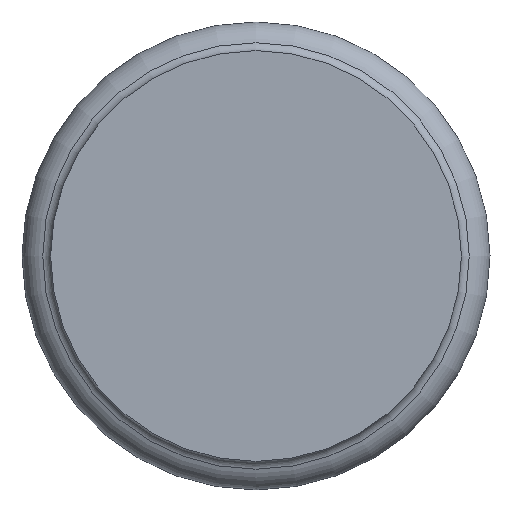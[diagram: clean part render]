
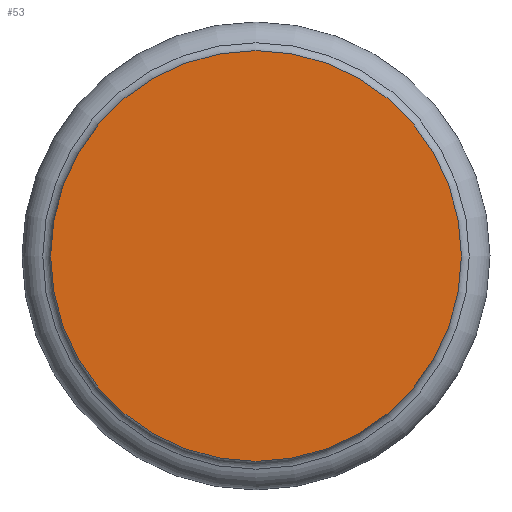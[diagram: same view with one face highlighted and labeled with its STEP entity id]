
A CAD part, front view. The second image highlights one B-rep face of the part: STEP entity #53.
In plain terms, the highlighted planar face has unit normal (0, -1, 0).
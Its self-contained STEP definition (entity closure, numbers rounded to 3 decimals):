
#53=ADVANCED_FACE('',(#64),#66,.T.);
#64=FACE_BOUND('',#65,.T.);
#65=EDGE_LOOP('',(#159));
#66=PLANE('',#67);
#67=AXIS2_PLACEMENT_3D('',#68,#69,#70);
#68=CARTESIAN_POINT('',(0.,-63.,0.));
#69=DIRECTION('',(0.,-1.,0.));
#70=DIRECTION('',(0.,0.,1.));
#159=ORIENTED_EDGE('',*,*,#179,.F.);
#179=EDGE_CURVE('',#189,#189,#190,.T.);
#189=VERTEX_POINT('',#209);
#190=CIRCLE('',#210,28.7);
#209=CARTESIAN_POINT('',(0.,-63.,28.7));
#210=AXIS2_PLACEMENT_3D('',#211,#212,#213);
#211=CARTESIAN_POINT('',(0.,-63.,0.));
#212=DIRECTION('',(0.,1.,0.));
#213=DIRECTION('',(0.,0.,1.));
